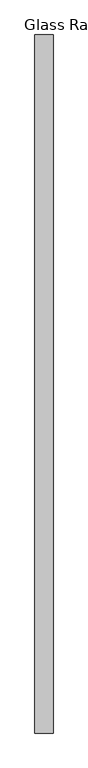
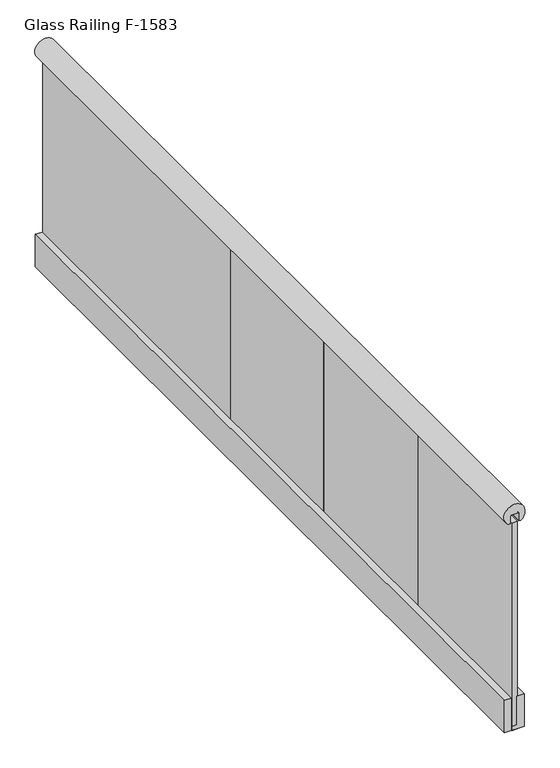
"""IFC4 building model written with IfcOpenShell, lengths in millimetres: railing geometry, Glass Railing F-1583."""

from ifc_helpers import new_model, si_unit, point, frame, frame_2d, origin, place, context, project, spatial, polyline, circle_curve, trimmed, segment, composite_curve, outline, extrude, source, transform, mapped, element, save


def glass_railing_f_1583_7c77ba6a(model_context):
    return source(origin(), model_context, "Body", "SweptSolid", [
        extrude(outline(polyline([(305.0, 28795.0185837), (305.0, 28773.4785837), (200.0, 28773.4785837), (200.0, 28834.9785837), (305.0, 28834.9785837), (305.0, 28812.5385837), (212.0, 28812.5385837), (212.0, 28795.0185837), (305.0, 28795.0185837)])), frame((0.0, -1042.7506461, 0.0), z_axis=(0.0, 1.0, 0.0), x_axis=(0.0, 0.0, 1.0)), (0.0, 0.0, 1.0), 2500.0),
        extrude(outline(composite_curve([segment(trimmed(circle_curve(frame_2d((899.3680551, 28804.9785837)), 32.5), [point((873.8439266, 28825.0974521))], [point((873.8439266, 28784.8597154))], False, "CARTESIAN"), True, "CONTINUOUS"), segment(trimmed(circle_curve(frame_2d((876.2, 28786.7168417)), 3.0), [point((873.8439266, 28784.8597154))], [point((873.2, 28786.7168417))], False, "CARTESIAN"), True, "CONTINUOUS"), segment(polyline([(873.2, 28786.7168417), (873.2, 28791.3785837)]), True, "CONTINUOUS"), segment(trimmed(circle_curve(frame_2d((874.2, 28791.3785837)), 1.0), [point((873.2, 28791.3785837))], [point((874.2, 28792.3785837))], False, "CARTESIAN"), True, "CONTINUOUS"), segment(polyline([(874.2, 28792.3785837), (899.0, 28792.3785837)]), True, "CONTINUOUS"), segment(trimmed(circle_curve(frame_2d((899.0, 28793.3785837)), 1.0), [point((899.0, 28792.3785837))], [point((900.0, 28793.3785837))], True, "CARTESIAN"), True, "CONTINUOUS"), segment(polyline([(900.0, 28793.3785837), (900.0, 28816.5785837)]), True, "CONTINUOUS"), segment(trimmed(circle_curve(frame_2d((899.0, 28816.5785837)), 1.0), [point((900.0, 28816.5785837))], [point((899.0, 28817.5785837))], True, "CARTESIAN"), True, "CONTINUOUS"), segment(polyline([(899.0, 28817.5785837), (874.2, 28817.5785837)]), True, "CONTINUOUS"), segment(trimmed(circle_curve(frame_2d((874.2, 28818.5785837)), 1.0), [point((874.2, 28817.5785837))], [point((873.2, 28818.5785837))], False, "CARTESIAN"), True, "CONTINUOUS"), segment(polyline([(873.2, 28818.5785837), (873.2, 28823.2403257)]), True, "CONTINUOUS"), segment(trimmed(circle_curve(frame_2d((876.2, 28823.2403257)), 3.0), [point((873.2, 28823.2403257))], [point((873.8439266, 28825.0974521))], False, "CARTESIAN"), True, "CONTINUOUS")], self_intersect=False)), frame((0.0, -1042.7506461, 0.0), z_axis=(0.0, 1.0, 0.0), x_axis=(0.0, 0.0, 1.0)), (0.0, 0.0, 1.0), 2500.0),
        extrude(outline(polyline([(28795.9785837, 457.2493539), (28795.9785837, 1457.2493539), (28813.4785837, 1457.2493539), (28813.4785837, 457.2493539), (28795.9785837, 457.2493539)])), frame((0.0, 0.0, 199.0), z_axis=(0.0, 0.0, 1.0), x_axis=(1.0, 0.0, 0.0)), (0.0, 0.0, 1.0), 674.2),
        extrude(outline(polyline([(28795.9785837, -42.7506461), (28795.9785837, 957.2493539), (28813.4785837, 957.2493539), (28813.4785837, -42.7506461), (28795.9785837, -42.7506461)])), frame((0.0, 0.0, 199.0), z_axis=(0.0, 0.0, 1.0), x_axis=(1.0, 0.0, 0.0)), (0.0, 0.0, 1.0), 674.2),
        extrude(outline(polyline([(28795.9785837, -542.7506461), (28795.9785837, 457.2493539), (28813.4785837, 457.2493539), (28813.4785837, -542.7506461), (28795.9785837, -542.7506461)])), frame((0.0, 0.0, 199.0), z_axis=(0.0, 0.0, 1.0), x_axis=(1.0, 0.0, 0.0)), (0.0, 0.0, 1.0), 674.2),
        extrude(outline(polyline([(28795.9785837, -1042.7506461), (28795.9785837, -42.7506461), (28813.4785837, -42.7506461), (28813.4785837, -1042.7506461), (28795.9785837, -1042.7506461)])), frame((0.0, 0.0, 199.0), z_axis=(0.0, 0.0, 1.0), x_axis=(1.0, 0.0, 0.0)), (0.0, 0.0, 1.0), 674.2),
    ])


if __name__ == "__main__":
    model = new_model("IFC4")
    model_context = context("Model", 3, world=origin())
    ifc_project = project(units=[si_unit("LENGTHUNIT", "METRE", prefix="MILLI")], contexts=[model_context])
    site = spatial("IfcSite", under=ifc_project)
    building = spatial("IfcBuilding", under=site)
    placement = place(None, origin())
    glass_railing_f_1583_shape = glass_railing_f_1583_7c77ba6a(model_context)
    element("IfcRailing", 1, ObjectType="Glass Railing F-1583", at=placement, inside=building, context=model_context, shape_type="MappedRepresentation", body=[
        mapped(glass_railing_f_1583_shape, transform((0.0, 0.0, 0.0), x_axis=(1.0, 0.0, 0.0), y_axis=(0.0, 1.0, 0.0), z_axis=(0.0, 0.0, 1.0))),
    ])
    save(model, "model.ifc")
